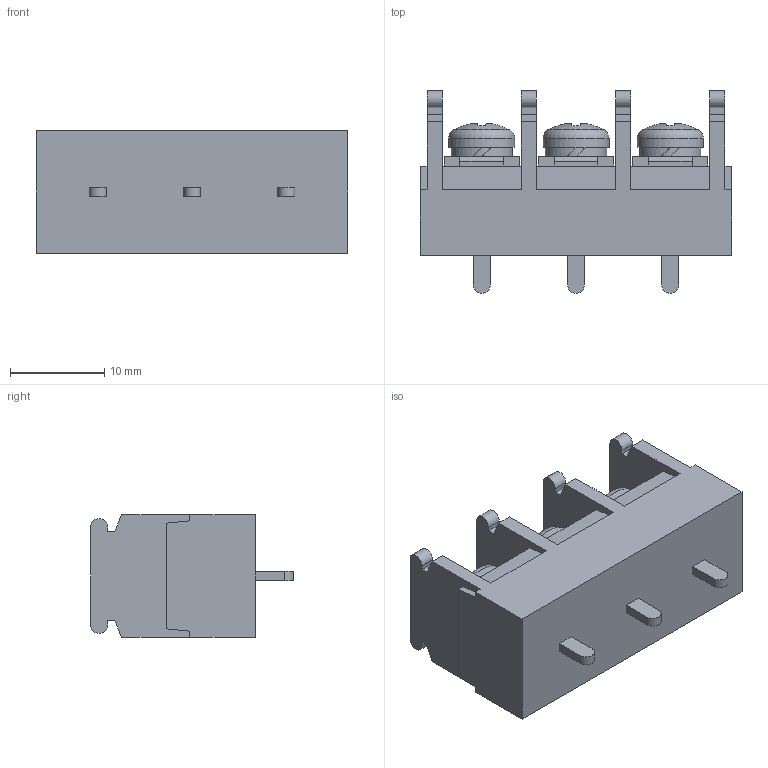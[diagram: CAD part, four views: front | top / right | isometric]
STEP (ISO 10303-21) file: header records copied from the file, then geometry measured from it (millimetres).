
FILE_DESCRIPTION(/* description */ ('Alibre Inc.'),/* implementation_level */ '2;1');
FILE_NAME(/* name */ 'export0',/* time_stamp */ '2015-10-17T18:04:05+09:00',/* author */ (''),/* organization */ (''),/* preprocessor_version */ 'ST-DEVELOPER v14',/* originating_system */ 'Alibre',/* authorisation */ '');
FILE_SCHEMA (('CONFIG_CONTROL_DESIGN'));
Length unit declared in the file: centimetre
Products named in the file (1): ID_1
Bounding box: 33 x 21.5 x 13 mm (x, y, z)
Volume: 5109.9 mm3; surface area: 3176.1 mm2
Topology: 1 solids, 17 shells, 593 faces, 1581 edges, 1051 vertices
Faces by surface type: plane 442, bspline 104, cylinder 26, cone 12, torus 6, sphere 3
Full cylindrical faces by diameter (mm): 4 x3, 6.5 x3, 7 x3
Entity records: 17884 total; most frequent: CARTESIAN_POINT 4217, ORIENTED_EDGE 3120, DIRECTION 1994, EDGE_CURVE 1560, VECTOR 1192, LINE 1192, VERTEX_POINT 1042, EDGE_LOOP 648
